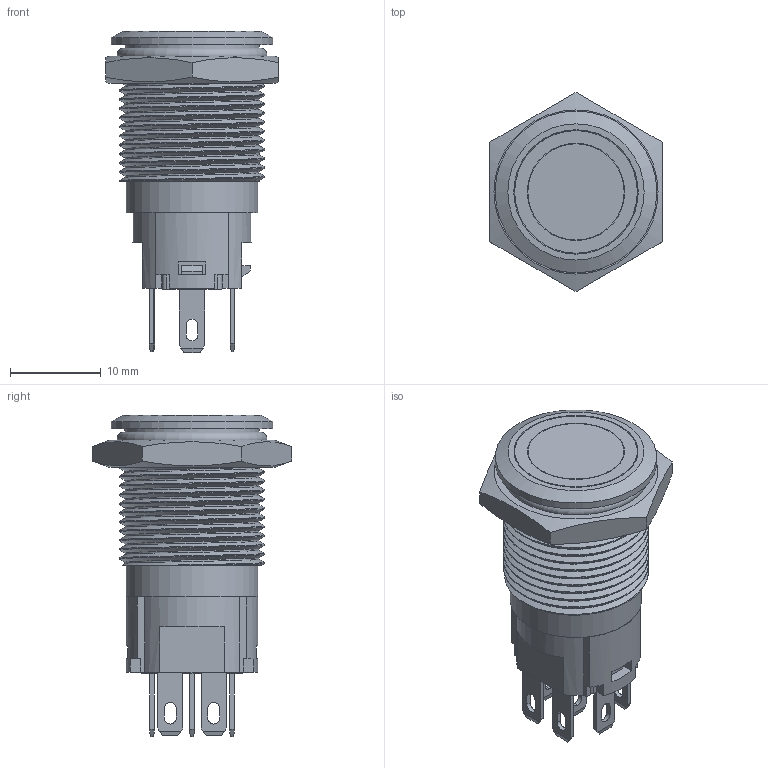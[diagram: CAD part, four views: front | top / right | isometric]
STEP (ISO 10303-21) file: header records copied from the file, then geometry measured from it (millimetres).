
FILE_DESCRIPTION(/* description */ (''),/* implementation_level */ '2;1');
FILE_NAME(/* name */ 'J16-271-M.stp',/* time_stamp */ '2023-10-06T13:06:59+08:00',/* author */ (''),/* organization */ (''),/* preprocessor_version */ 'ST-DEVELOPER v11',/* originating_system */ 'SIEMENS UGS NX 6.0',/* authorisation */ '');
FILE_SCHEMA (('CONFIG_CONTROL_DESIGN'));
Length unit declared in the file: millimetre
Products named in the file (1): J16-271-M
Bounding box: 19 x 21.94 x 35.4 mm (x, y, z)
Volume: 2990.9 mm3; surface area: 7483.3 mm2
Topology: 14 solids, 14 shells, 784 faces, 2146 edges, 1407 vertices
Faces by surface type: plane 646, cylinder 99, extrusion 19, cone 14, bspline 4, torus 2
Full cylindrical faces by diameter (mm): 1.9 x1, 2.4 x1, 2.5 x1, 4.1 x1, 5.4 x1, 7.4 x1, 9 x1, 10.6 x2, 10.7 x1, 11 x1, 13 x1, 13.5 x1, 13.7 x1, 14 x1, 14.1 x1, 14.5 x1, 14.8 x14, 17.8 x1
Entity records: 26986 total; most frequent: CARTESIAN_POINT 7418, ORIENTED_EDGE 4138, DIRECTION 3721, EDGE_CURVE 2069, VECTOR 1807, LINE 1788, VERTEX_POINT 1382, AXIS2_PLACEMENT_3D 957
